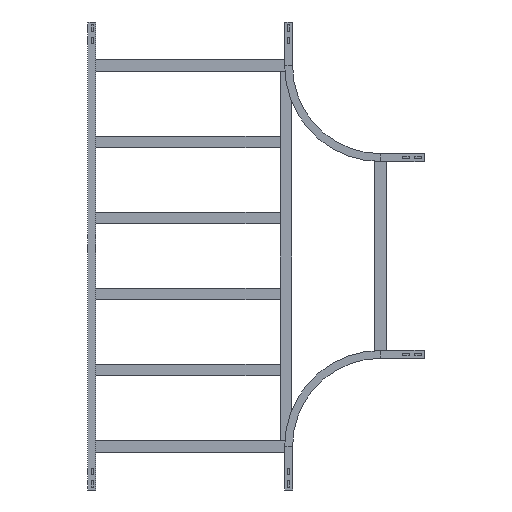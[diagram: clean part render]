
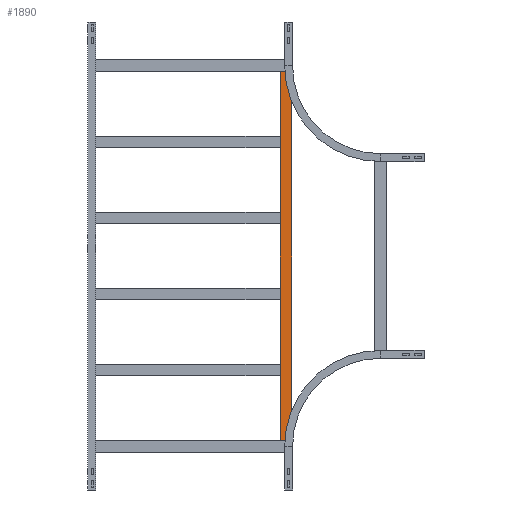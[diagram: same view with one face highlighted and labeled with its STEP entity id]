
A CAD part, front view. The second image highlights one B-rep face of the part: STEP entity #1890.
In plain terms, the highlighted planar face has unit normal (0, -1, 0).
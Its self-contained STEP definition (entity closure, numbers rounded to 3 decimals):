
#1 = CARTESIAN_POINT ( 'NONE',  ( 629.75, 0., 20.25 ) ) ;
#196 = LINE ( 'NONE', #442, #2698 ) ;
#217 = ORIENTED_EDGE ( 'NONE', *, *, #427, .F. ) ;
#311 = CARTESIAN_POINT ( 'NONE',  ( 629.75, 0., 20.25 ) ) ;
#355 = ORIENTED_EDGE ( 'NONE', *, *, #3529, .F. ) ;
#427 = EDGE_CURVE ( 'NONE', #954, #1008, #1692, .T. ) ;
#442 = CARTESIAN_POINT ( 'NONE',  ( -629.75, 0., 20.25 ) ) ;
#505 = CARTESIAN_POINT ( 'NONE',  ( 629.75, 0., 20.25 ) ) ;
#547 = AXIS2_PLACEMENT_3D ( 'NONE', #311, #3027, #3874 ) ;
#756 = EDGE_CURVE ( 'NONE', #3189, #3251, #196, .T. ) ;
#812 = DIRECTION ( 'NONE',  ( -1., 0., 0. ) ) ;
#830 = CARTESIAN_POINT ( 'NONE',  ( 629.75, 0., -20.25 ) ) ;
#893 = VECTOR ( 'NONE', #812, 1000. ) ;
#923 = LINE ( 'NONE', #1, #2990 ) ;
#954 = VERTEX_POINT ( 'NONE', #2909 ) ;
#1008 = VERTEX_POINT ( 'NONE', #3204 ) ;
#1656 = LINE ( 'NONE', #830, #893 ) ;
#1692 = LINE ( 'NONE', #505, #3586 ) ;
#1775 = PLANE ( 'NONE',  #547 ) ;
#1838 = EDGE_CURVE ( 'NONE', #954, #3189, #923, .T. ) ;
#1883 = EDGE_LOOP ( 'NONE', ( #3269, #355, #217, #3576 ) ) ;
#1890 = ADVANCED_FACE ( 'NONE', ( #2674 ), #1775, .F. ) ;
#1951 = DIRECTION ( 'NONE',  ( 0., 0., -1. ) ) ;
#2091 = DIRECTION ( 'NONE',  ( -1., 0., 0. ) ) ;
#2449 = CARTESIAN_POINT ( 'NONE',  ( -629.75, 0., -20.25 ) ) ;
#2674 = FACE_OUTER_BOUND ( 'NONE', #1883, .T. ) ;
#2698 = VECTOR ( 'NONE', #1951, 1000. ) ;
#2906 = DIRECTION ( 'NONE',  ( 0., 0., -1. ) ) ;
#2909 = CARTESIAN_POINT ( 'NONE',  ( 629.75, 0., 20.25 ) ) ;
#2990 = VECTOR ( 'NONE', #2091, 1000. ) ;
#3027 = DIRECTION ( 'NONE',  ( 0., 1., 0. ) ) ;
#3189 = VERTEX_POINT ( 'NONE', #3349 ) ;
#3204 = CARTESIAN_POINT ( 'NONE',  ( 629.75, 0., -20.25 ) ) ;
#3251 = VERTEX_POINT ( 'NONE', #2449 ) ;
#3269 = ORIENTED_EDGE ( 'NONE', *, *, #756, .T. ) ;
#3349 = CARTESIAN_POINT ( 'NONE',  ( -629.75, 0., 20.25 ) ) ;
#3529 = EDGE_CURVE ( 'NONE', #1008, #3251, #1656, .T. ) ;
#3576 = ORIENTED_EDGE ( 'NONE', *, *, #1838, .T. ) ;
#3586 = VECTOR ( 'NONE', #2906, 1000. ) ;
#3874 = DIRECTION ( 'NONE',  ( 0., 0., 1. ) ) ;
